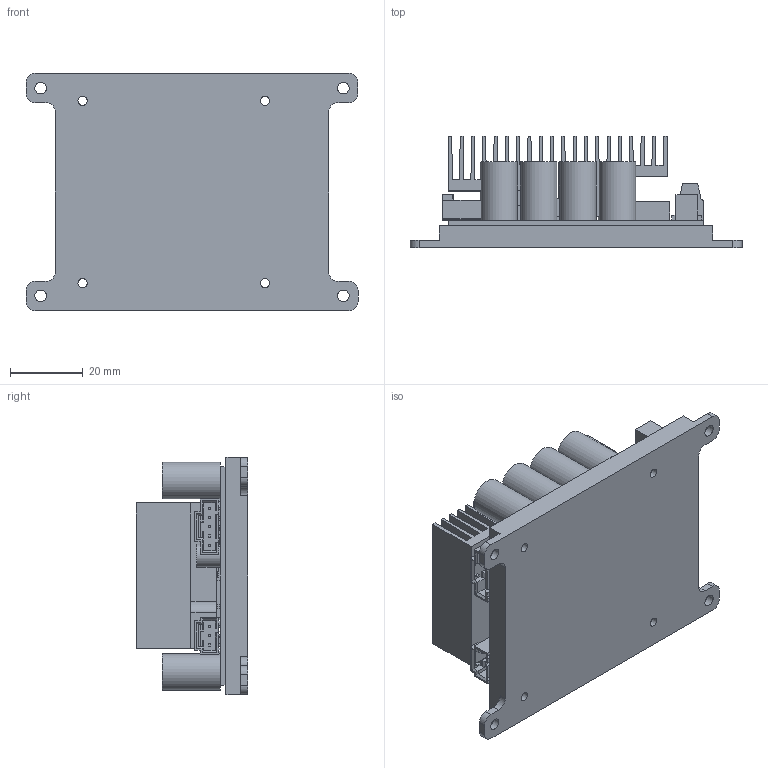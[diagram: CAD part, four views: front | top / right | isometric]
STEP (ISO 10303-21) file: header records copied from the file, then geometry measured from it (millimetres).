
FILE_DESCRIPTION(/* description */ ('Alibre Inc.'),/* implementation_level */ '2;1');
FILE_NAME(/* name */ 'export-5857644C-A8F7-40D0-9AE7-39C64A7CEA4D',/* time_stamp */ '2026-09-22T14:49:56-06:00',/* author */ (''),/* organization */ (''),/* preprocessor_version */ 'ST-DEVELOPER v17',/* originating_system */ 'Alibre',/* authorisation */ '');
FILE_SCHEMA (('CONFIG_CONTROL_DESIGN'));
Length unit declared in the file: centimetre
Products named in the file (260): Board; Extruded; 5984504512; 5984504320; R27; R25; R23; 5984504128; 5984503936; R18; R13; R2; 5984503552; D10; D8; 5984503744; D6; D2; C15; Cylinder; 5984502016; 5982125696; C70; 5982125504; C63; C62; C57; C54; User_Library-SOT-23-5_pin_SOT_sot-23-6_1; User_Library-SOT-23-5_body_sot23-6_1; User_Library-SOT-23-5; U6; R46; R10; C24; D5; 5984502592; C69; R33; C27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
Bounding box: 91 x 30.6 x 65 mm (x, y, z)
Volume: 60118.9 mm3; surface area: 62222.1 mm2
Topology: 279 solids, 279 shells, 3332 faces, 7612 edges, 4777 vertices
Faces by surface type: plane 2308, cylinder 737, bspline 283, torus 4
Full cylindrical faces by diameter (mm): 0.381 x30, 0.889 x2, 0.965 x8, 1 x18, 1.067 x16, 1.2 x2, 1.6 x3, 2.5 x7, 3.175 x8, 6.3 x1, 10 x8
Entity records: 95888 total; most frequent: CARTESIAN_POINT 17857, DIRECTION 9817, ORIENTED_EDGE 9514, EDGE_CURVE 4757, AXIS2_PLACEMENT_3D 3817, VECTOR 3230, LINE 3230, PERSON_AND_ORGANIZATION 3004
